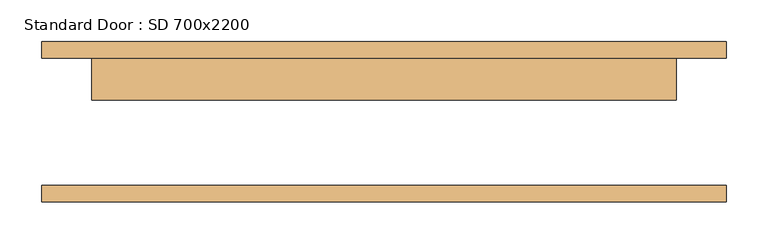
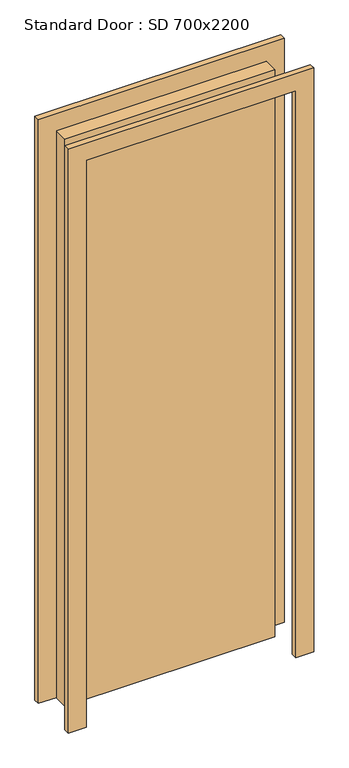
"""IFC4 building model written with IfcOpenShell, lengths in millimetres: door geometry, Standard Door : SD 700x2200."""

from ifc_helpers import new_model, si_unit, frame, origin, origin_with_axes, place, context, project, spatial, polyline, outline, extrude, source, transform, mapped, element, save


def standard_door_sd_700x2200_0f4b4a53(model_context):
    return source(origin(), model_context, "Body", "SweptSolid", [
        extrude(outline(polyline([(2060.0, -410.0), (0.0, -410.0), (0.0, -350.0), (2000.0, -350.0), (2000.0, 350.0), (0.0, 350.0), (0.0, 410.0), (2060.0, 410.0), (2060.0, -410.0)])), frame((0.0, 76.2, 0.0), z_axis=(0.0, 1.0, 0.0), x_axis=(0.0, 0.0, 1.0)), (0.0, 0.0, 1.0), 20.0),
        extrude(outline(polyline([(2060.0, 410.0), (2060.0, -410.0), (0.0, -410.0), (0.0, -350.0), (2000.0, -350.0), (2000.0, 350.0), (0.0, 350.0), (0.0, 410.0), (2060.0, 410.0)])), frame((0.0, -96.2, 0.0), z_axis=(0.0, 1.0, 0.0), x_axis=(0.0, 0.0, 1.0)), (0.0, 0.0, 1.0), 20.0),
        extrude(outline(polyline([(350.0, 26.2), (-350.0, 26.2), (-350.0, 76.2), (350.0, 76.2), (350.0, 26.2)])), origin_with_axes(), (0.0, 0.0, 1.0), 2000.0),
    ])


if __name__ == "__main__":
    model = new_model("IFC4")
    model_context = context("Model", 3, world=origin())
    ifc_project = project(units=[si_unit("LENGTHUNIT", "METRE", prefix="MILLI")], contexts=[model_context])
    site = spatial("IfcSite", under=ifc_project)
    building = spatial("IfcBuilding", under=site)
    placement = place(None, origin())
    standard_door_sd_700x2200_shape = standard_door_sd_700x2200_0f4b4a53(model_context)
    element("IfcDoor", 1, ObjectType="Standard Door : SD 700x2200", at=placement, inside=building, context=model_context, shape_type="MappedRepresentation", body=[
        mapped(standard_door_sd_700x2200_shape, transform((0.0, 0.0, 0.0), x_axis=(1.0, 0.0, 0.0), y_axis=(0.0, 1.0, 0.0), z_axis=(0.0, 0.0, 1.0))),
    ])
    save(model, "model.ifc")
